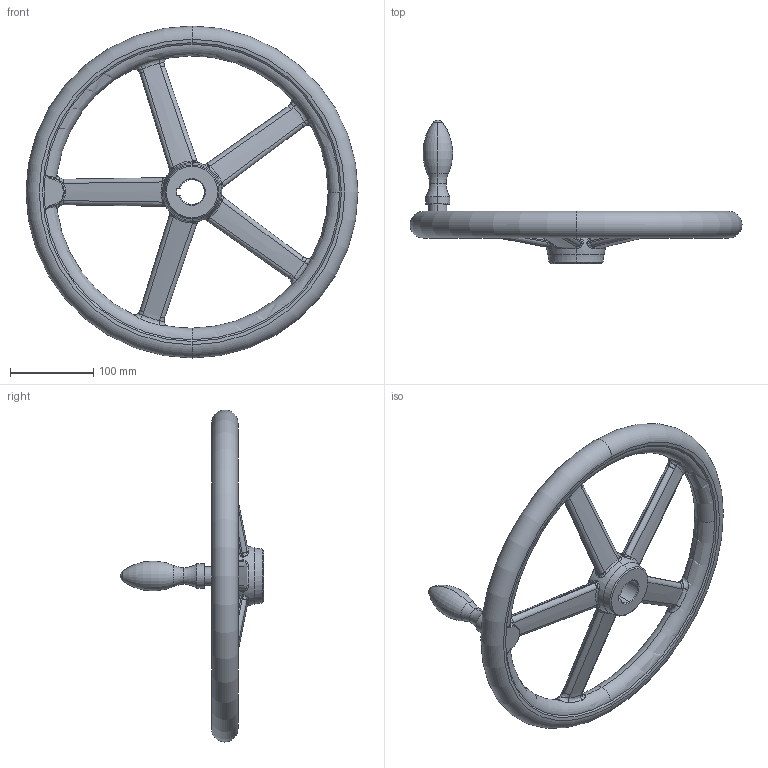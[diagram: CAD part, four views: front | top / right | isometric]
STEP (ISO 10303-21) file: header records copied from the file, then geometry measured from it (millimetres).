
FILE_DESCRIPTION (( 'STEP AP203' ), '1' );
FILE_NAME ('din950_f3_400x30.step', '2010-03-23T10:28:30', ( '_' ), ( '_' ), 'SwSTEP 2.0', 'SolidWorks 2010', '' );
FILE_SCHEMA (( 'CONFIG_CONTROL_DESIGN' ));
Length unit declared in the file: millimetre
Products named in the file (1): din950_f3_400x30
Bounding box: 400 x 173 x 400 mm (x, y, z)
Volume: 1461463.4 mm3; surface area: 199036.3 mm2
Topology: 1 solids, 1 shells, 267 faces, 659 edges, 345 vertices
Faces by surface type: bspline 196, torus 24, plane 18, cone 18, cylinder 9, sphere 2
Entity records: 59768 total; most frequent: CARTESIAN_POINT 54875, ORIENTED_EDGE 1230, EDGE_CURVE 615, DIRECTION 606, B_SPLINE_CURVE_WITH_KNOTS 368, VERTEX_POINT 345, AXIS2_PLACEMENT_3D 287, EDGE_LOOP 274
